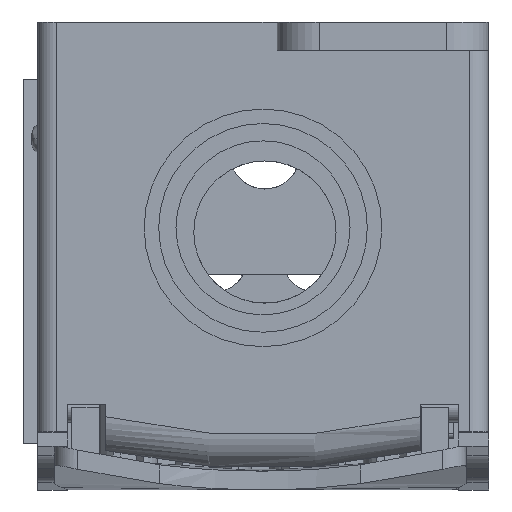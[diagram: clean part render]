
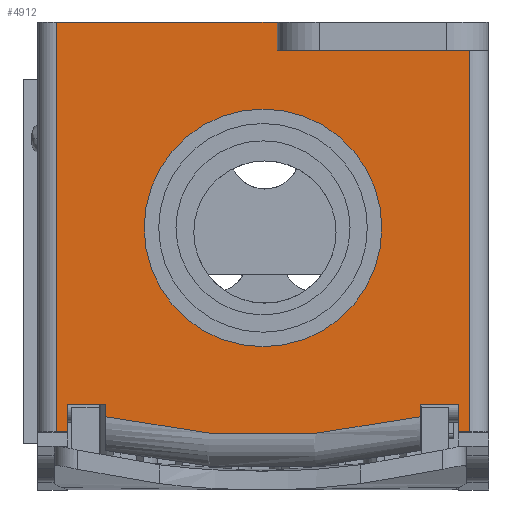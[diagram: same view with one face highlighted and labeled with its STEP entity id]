
A CAD part, front view. The second image highlights one B-rep face of the part: STEP entity #4912.
In plain terms, the highlighted planar face has unit normal (0, -1, 0).
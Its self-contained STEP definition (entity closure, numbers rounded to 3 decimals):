
#4025=FACE_BOUND('',#6272,.T.);
#4026=FACE_BOUND('',#6273,.T.);
#4231=CIRCLE('',#14879,71.704);
#4232=CIRCLE('',#14880,12.7);
#4233=CIRCLE('',#14881,12.7);
#4912=ADVANCED_FACE('',(#4025,#4026),#5446,.T.);
#5446=PLANE('',#14882);
#6272=EDGE_LOOP('',(#7292,#7293,#7294,#7295,#7296,#7297,#7298,#7299,#7300,
#7301,#7302,#7303,#7304,#7305));
#6273=EDGE_LOOP('',(#7306,#7307));
#7292=ORIENTED_EDGE('',*,*,#11472,.T.);
#7293=ORIENTED_EDGE('',*,*,#11465,.F.);
#7294=ORIENTED_EDGE('',*,*,#11473,.T.);
#7295=ORIENTED_EDGE('',*,*,#11474,.T.);
#7296=ORIENTED_EDGE('',*,*,#11475,.F.);
#7297=ORIENTED_EDGE('',*,*,#11476,.F.);
#7298=ORIENTED_EDGE('',*,*,#11477,.T.);
#7299=ORIENTED_EDGE('',*,*,#11378,.T.);
#7300=ORIENTED_EDGE('',*,*,#11369,.T.);
#7301=ORIENTED_EDGE('',*,*,#11367,.T.);
#7302=ORIENTED_EDGE('',*,*,#11478,.T.);
#7303=ORIENTED_EDGE('',*,*,#11479,.T.);
#7304=ORIENTED_EDGE('',*,*,#11270,.T.);
#7305=ORIENTED_EDGE('',*,*,#11268,.T.);
#7306=ORIENTED_EDGE('',*,*,#11480,.F.);
#7307=ORIENTED_EDGE('',*,*,#11481,.F.);
#10196=VERTEX_POINT('',#19198);
#10197=VERTEX_POINT('',#19200);
#10198=VERTEX_POINT('',#19204);
#10283=VERTEX_POINT('',#19393);
#10284=VERTEX_POINT('',#19395);
#10285=VERTEX_POINT('',#19399);
#10290=VERTEX_POINT('',#19417);
#10364=VERTEX_POINT('',#19589);
#10365=VERTEX_POINT('',#19591);
#10370=VERTEX_POINT('',#19606);
#10371=VERTEX_POINT('',#19608);
#10372=VERTEX_POINT('',#19610);
#10373=VERTEX_POINT('',#19612);
#10374=VERTEX_POINT('',#19615);
#10375=VERTEX_POINT('',#19618);
#10376=VERTEX_POINT('',#19619);
#11268=EDGE_CURVE('',#10197,#10196,#12834,.T.);
#11270=EDGE_CURVE('',#10198,#10197,#12835,.T.);
#11367=EDGE_CURVE('',#10284,#10283,#12909,.T.);
#11369=EDGE_CURVE('',#10285,#10284,#12910,.T.);
#11378=EDGE_CURVE('',#10290,#10285,#12919,.T.);
#11465=EDGE_CURVE('',#10364,#10365,#12981,.T.);
#11472=EDGE_CURVE('',#10196,#10365,#12988,.T.);
#11473=EDGE_CURVE('',#10364,#10370,#12989,.T.);
#11474=EDGE_CURVE('',#10370,#10371,#12990,.T.);
#11475=EDGE_CURVE('',#10372,#10371,#4231,.T.);
#11476=EDGE_CURVE('',#10373,#10372,#12991,.T.);
#11477=EDGE_CURVE('',#10373,#10290,#12992,.T.);
#11478=EDGE_CURVE('',#10283,#10374,#12993,.T.);
#11479=EDGE_CURVE('',#10374,#10198,#12994,.T.);
#11480=EDGE_CURVE('',#10375,#10376,#4232,.T.);
#11481=EDGE_CURVE('',#10376,#10375,#4233,.T.);
#12834=LINE('',#19199,#13825);
#12835=LINE('',#19203,#13826);
#12909=LINE('',#19394,#13900);
#12910=LINE('',#19398,#13901);
#12919=LINE('',#19416,#13910);
#12981=LINE('',#19590,#13972);
#12988=LINE('',#19603,#13979);
#12989=LINE('',#19605,#13980);
#12990=LINE('',#19607,#13981);
#12991=LINE('',#19611,#13982);
#12992=LINE('',#19613,#13983);
#12993=LINE('',#19614,#13984);
#12994=LINE('',#19616,#13985);
#13825=VECTOR('',#16000,1.);
#13826=VECTOR('',#16005,1.);
#13900=VECTOR('',#16141,1.);
#13901=VECTOR('',#16146,1.);
#13910=VECTOR('',#16163,1.);
#13972=VECTOR('',#16299,1.);
#13979=VECTOR('',#16308,1.);
#13980=VECTOR('',#16311,1.);
#13981=VECTOR('',#16312,1.);
#13982=VECTOR('',#16315,1.);
#13983=VECTOR('',#16316,1.);
#13984=VECTOR('',#16317,1.);
#13985=VECTOR('',#16318,1.);
#14879=AXIS2_PLACEMENT_3D('',#19609,#16313,#16314);
#14880=AXIS2_PLACEMENT_3D('',#19617,#16319,#16320);
#14881=AXIS2_PLACEMENT_3D('',#19620,#16321,#16322);
#14882=AXIS2_PLACEMENT_3D('',#19621,#16323,#16324);
#16000=DIRECTION('',(0.,0.,-1.));
#16005=DIRECTION('',(-1.,0.,0.));
#16141=DIRECTION('',(0.,0.,1.));
#16146=DIRECTION('',(1.,0.,0.));
#16163=DIRECTION('',(0.,0.,-1.));
#16299=DIRECTION('',(0.,0.,-1.));
#16308=DIRECTION('',(1.,0.,0.));
#16311=DIRECTION('',(1.,0.,0.));
#16312=DIRECTION('',(0.,0.,-1.));
#16313=DIRECTION('',(0.,1.,0.));
#16314=DIRECTION('',(0.234,0.,-0.972));
#16315=DIRECTION('',(0.,0.,-1.));
#16316=DIRECTION('',(1.,0.,0.));
#16317=DIRECTION('',(-1.,0.,0.));
#16318=DIRECTION('',(0.,0.,1.));
#16319=DIRECTION('',(0.,-1.,0.));
#16320=DIRECTION('',(1.,0.,0.));
#16321=DIRECTION('',(0.,-1.,0.));
#16322=DIRECTION('',(-1.,0.,0.));
#16323=DIRECTION('',(0.,-1.,0.));
#16324=DIRECTION('',(0.,0.,1.));
#19198=CARTESIAN_POINT('',(53.54,27.7,-53.31));
#19199=CARTESIAN_POINT('',(53.54,27.7,-9.51));
#19200=CARTESIAN_POINT('',(53.54,27.7,-9.51));
#19203=CARTESIAN_POINT('',(77.14,27.7,-9.51));
#19204=CARTESIAN_POINT('',(77.14,27.7,-9.51));
#19393=CARTESIAN_POINT('',(97.74,27.7,-12.51));
#19394=CARTESIAN_POINT('',(97.74,27.7,-53.31));
#19395=CARTESIAN_POINT('',(97.74,27.7,-53.31));
#19398=CARTESIAN_POINT('',(96.54,27.7,-53.31));
#19399=CARTESIAN_POINT('',(96.54,27.7,-53.31));
#19416=CARTESIAN_POINT('',(96.54,27.7,-50.431));
#19417=CARTESIAN_POINT('',(96.54,27.7,-50.431));
#19589=CARTESIAN_POINT('',(54.74,27.7,-50.431));
#19590=CARTESIAN_POINT('',(54.74,27.7,-50.431));
#19591=CARTESIAN_POINT('',(54.74,27.7,-53.31));
#19603=CARTESIAN_POINT('',(53.54,27.7,-53.31));
#19605=CARTESIAN_POINT('',(54.74,27.7,-50.431));
#19606=CARTESIAN_POINT('',(58.84,27.7,-50.431));
#19607=CARTESIAN_POINT('',(58.84,27.7,-50.431));
#19608=CARTESIAN_POINT('',(58.84,27.7,-51.694));
#19609=CARTESIAN_POINT('',(75.64,27.7,18.014));
#19610=CARTESIAN_POINT('',(92.44,27.7,-51.694));
#19611=CARTESIAN_POINT('',(92.44,27.7,-50.431));
#19612=CARTESIAN_POINT('',(92.44,27.7,-50.431));
#19613=CARTESIAN_POINT('',(92.44,27.7,-50.431));
#19614=CARTESIAN_POINT('',(97.74,27.7,-12.51));
#19615=CARTESIAN_POINT('',(77.14,27.7,-12.51));
#19616=CARTESIAN_POINT('',(77.14,27.7,-12.51));
#19617=CARTESIAN_POINT('',(75.64,27.7,-31.51));
#19618=CARTESIAN_POINT('',(88.34,27.7,-31.51));
#19619=CARTESIAN_POINT('',(62.94,27.7,-31.51));
#19620=CARTESIAN_POINT('',(75.64,27.7,-31.51));
#19621=CARTESIAN_POINT('',(51.54,27.7,-9.51));
